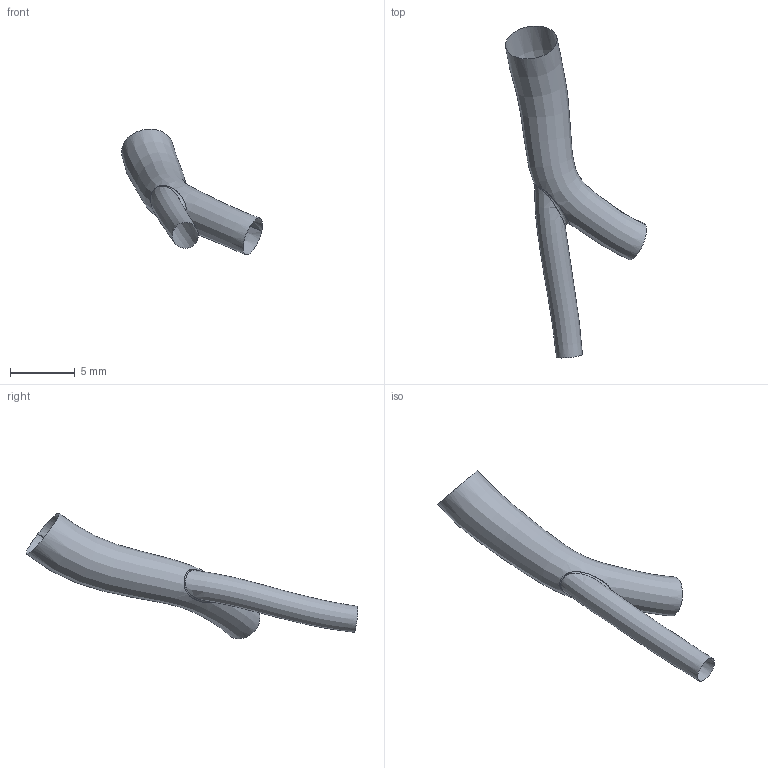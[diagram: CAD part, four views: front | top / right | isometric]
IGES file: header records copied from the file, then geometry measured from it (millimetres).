
Global section: file name: C:\Documents and Settings\Administrator\Desktop\FDA-Pig\Domestic LCA\Pig_000006\diag.es.igs; native system: Rhinoceros ( May 19 2006 ); preprocessor: Trout Lake IGES 012 May 19 2006; date: 111205.183523; units: centimetre
Bounding box: 10.88 x 25.59 x 9.69 mm (x, y, z)
Surface area: 294.3 mm2 (no closed solid volume)
Topology: 0 solids, 0 shells, 3 faces, 43 edges, 40 vertices
Faces by surface type: bspline 3
